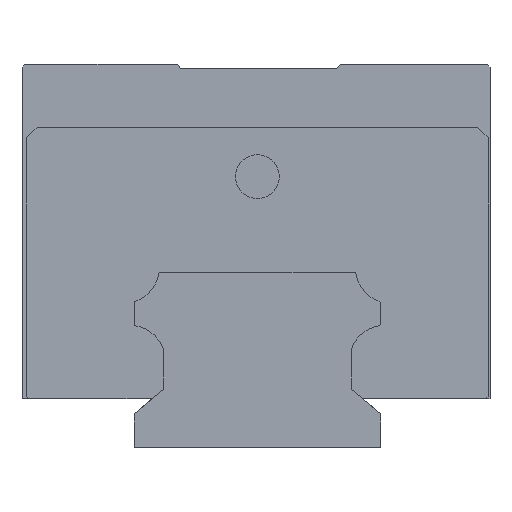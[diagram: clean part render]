
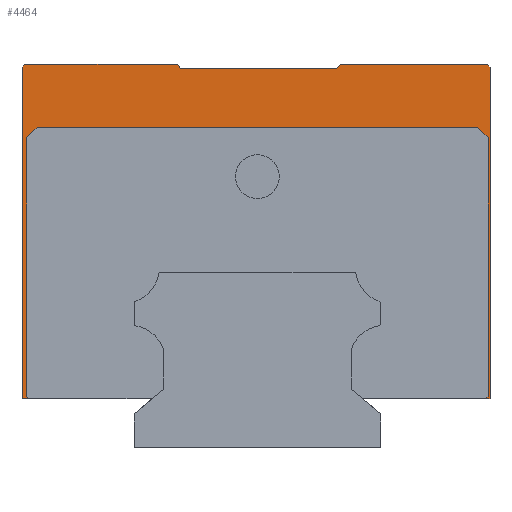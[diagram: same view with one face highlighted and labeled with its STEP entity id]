
A CAD part, left-side view. The second image highlights one B-rep face of the part: STEP entity #4464.
In plain terms, the highlighted planar face has unit normal (-1, 0, 0).
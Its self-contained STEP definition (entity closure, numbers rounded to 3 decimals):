
#63 = CARTESIAN_POINT ( 'NONE',  ( -53., 14., 69.25 ) ) ;
#88 = VERTEX_POINT ( 'NONE', #369 ) ;
#104 = ORIENTED_EDGE ( 'NONE', *, *, #3865, .F. ) ;
#113 = LINE ( 'NONE', #2906, #5127 ) ;
#124 = CARTESIAN_POINT ( 'NONE',  ( -53., 41.75, 8.9 ) ) ;
#142 = VECTOR ( 'NONE', #2968, 1000. ) ;
#161 = ORIENTED_EDGE ( 'NONE', *, *, #3371, .F. ) ;
#169 = LINE ( 'NONE', #1757, #2227 ) ;
#172 = ORIENTED_EDGE ( 'NONE', *, *, #3159, .F. ) ;
#173 = LINE ( 'NONE', #982, #965 ) ;
#175 = CARTESIAN_POINT ( 'NONE',  ( -53., -14.5, 69.25 ) ) ;
#178 = DIRECTION ( 'NONE',  ( 0., 1., 0. ) ) ;
#224 = LINE ( 'NONE', #3072, #4138 ) ;
#251 = VERTEX_POINT ( 'NONE', #2863 ) ;
#269 = DIRECTION ( 'NONE',  ( 0., 0.707, -0.707 ) ) ;
#333 = ORIENTED_EDGE ( 'NONE', *, *, #691, .T. ) ;
#369 = CARTESIAN_POINT ( 'NONE',  ( -53., -15.129, 70. ) ) ;
#396 = VECTOR ( 'NONE', #4522, 1000. ) ;
#416 = CARTESIAN_POINT ( 'NONE',  ( -53., 42.15, 56.6 ) ) ;
#479 = LINE ( 'NONE', #4888, #4144 ) ;
#502 = DIRECTION ( 'NONE',  ( 0., 0.643, 0.766 ) ) ;
#506 = DIRECTION ( 'NONE',  ( 0., 0., -1. ) ) ;
#541 = ORIENTED_EDGE ( 'NONE', *, *, #5160, .F. ) ;
#586 = LINE ( 'NONE', #175, #2231 ) ;
#617 = CARTESIAN_POINT ( 'NONE',  ( -53., 43., 8.9 ) ) ;
#645 = VERTEX_POINT ( 'NONE', #3975 ) ;
#653 = CARTESIAN_POINT ( 'NONE',  ( -53., 43., 8.9 ) ) ;
#686 = CARTESIAN_POINT ( 'NONE',  ( -53., 42.5, 70. ) ) ;
#691 = EDGE_CURVE ( 'NONE', #88, #2659, #903, .T. ) ;
#701 = ORIENTED_EDGE ( 'NONE', *, *, #4993, .F. ) ;
#803 = VECTOR ( 'NONE', #2217, 1000. ) ;
#816 = CARTESIAN_POINT ( 'NONE',  ( -53., -42.15, 56.6 ) ) ;
#846 = VERTEX_POINT ( 'NONE', #1363 ) ;
#864 = CARTESIAN_POINT ( 'NONE',  ( -53., 40.25, 58.5 ) ) ;
#903 = LINE ( 'NONE', #4536, #2874 ) ;
#908 = CARTESIAN_POINT ( 'NONE',  ( -53., -42.5, 69.5 ) ) ;
#911 = CARTESIAN_POINT ( 'NONE',  ( -53., 42.5, 70. ) ) ;
#965 = VECTOR ( 'NONE', #3755, 1000. ) ;
#982 = CARTESIAN_POINT ( 'NONE',  ( -53., -41.75, 8.9 ) ) ;
#1004 = LINE ( 'NONE', #3255, #1228 ) ;
#1135 = VERTEX_POINT ( 'NONE', #3178 ) ;
#1157 = CARTESIAN_POINT ( 'NONE',  ( -53., 19.554, 8.9 ) ) ;
#1162 = CARTESIAN_POINT ( 'NONE',  ( -53., 42.15, 9.3 ) ) ;
#1183 = VERTEX_POINT ( 'NONE', #2835 ) ;
#1186 = ORIENTED_EDGE ( 'NONE', *, *, #2491, .T. ) ;
#1228 = VECTOR ( 'NONE', #2421, 1000. ) ;
#1234 = EDGE_CURVE ( 'NONE', #645, #3288, #173, .T. ) ;
#1327 = CARTESIAN_POINT ( 'NONE',  ( -53., -42., 70. ) ) ;
#1334 = LINE ( 'NONE', #911, #396 ) ;
#1342 = FACE_OUTER_BOUND ( 'NONE', #4091, .T. ) ;
#1363 = CARTESIAN_POINT ( 'NONE',  ( -53., 43., 69.5 ) ) ;
#1366 = DIRECTION ( 'NONE',  ( 1., 0., 0. ) ) ;
#1444 = EDGE_CURVE ( 'NONE', #251, #846, #224, .T. ) ;
#1536 = LINE ( 'NONE', #1592, #1566 ) ;
#1552 = VECTOR ( 'NONE', #4435, 1000. ) ;
#1555 = VECTOR ( 'NONE', #2770, 1000. ) ;
#1566 = VECTOR ( 'NONE', #4690, 1000. ) ;
#1592 = CARTESIAN_POINT ( 'NONE',  ( -53., -42.5, 69.5 ) ) ;
#1635 = VERTEX_POINT ( 'NONE', #2489 ) ;
#1640 = CARTESIAN_POINT ( 'NONE',  ( -53., -42.15, 9.3 ) ) ;
#1718 = ORIENTED_EDGE ( 'NONE', *, *, #2283, .T. ) ;
#1737 = EDGE_CURVE ( 'NONE', #3707, #4746, #4443, .T. ) ;
#1756 = CARTESIAN_POINT ( 'NONE',  ( -53., 40.25, 58.5 ) ) ;
#1757 = CARTESIAN_POINT ( 'NONE',  ( -53., -43., 8.9 ) ) ;
#1758 = ORIENTED_EDGE ( 'NONE', *, *, #3106, .F. ) ;
#1797 = VECTOR ( 'NONE', #1814, 1000. ) ;
#1814 = DIRECTION ( 'NONE',  ( 0., -1., 0. ) ) ;
#1856 = ORIENTED_EDGE ( 'NONE', *, *, #1444, .T. ) ;
#1916 = ORIENTED_EDGE ( 'NONE', *, *, #1234, .F. ) ;
#2013 = EDGE_CURVE ( 'NONE', #1135, #1635, #4107, .T. ) ;
#2133 = ORIENTED_EDGE ( 'NONE', *, *, #5131, .F. ) ;
#2217 = DIRECTION ( 'NONE',  ( 0., 0., 1. ) ) ;
#2227 = VECTOR ( 'NONE', #4614, 1000. ) ;
#2231 = VECTOR ( 'NONE', #3209, 1000. ) ;
#2265 = CARTESIAN_POINT ( 'NONE',  ( -53., -14.5, 69.25 ) ) ;
#2283 = EDGE_CURVE ( 'NONE', #2905, #3160, #1536, .T. ) ;
#2412 = EDGE_CURVE ( 'NONE', #4823, #3298, #1004, .T. ) ;
#2421 = DIRECTION ( 'NONE',  ( 0., -0.707, -0.707 ) ) ;
#2464 = CARTESIAN_POINT ( 'NONE',  ( -53., -42.15, 56.6 ) ) ;
#2479 = ORIENTED_EDGE ( 'NONE', *, *, #2921, .F. ) ;
#2489 = CARTESIAN_POINT ( 'NONE',  ( -53., 14.629, 70. ) ) ;
#2491 = EDGE_CURVE ( 'NONE', #2659, #1135, #586, .T. ) ;
#2523 = CARTESIAN_POINT ( 'NONE',  ( -53., -43., 70. ) ) ;
#2617 = VECTOR ( 'NONE', #269, 1000. ) ;
#2659 = VERTEX_POINT ( 'NONE', #2265 ) ;
#2691 = LINE ( 'NONE', #686, #1797 ) ;
#2770 = DIRECTION ( 'NONE',  ( 0., 1., 0. ) ) ;
#2802 = LINE ( 'NONE', #816, #4656 ) ;
#2825 = DIRECTION ( 'NONE',  ( 0., 0.707, 0.707 ) ) ;
#2835 = CARTESIAN_POINT ( 'NONE',  ( -53., -42.5, 8.9 ) ) ;
#2863 = CARTESIAN_POINT ( 'NONE',  ( -53., 42.5, 70. ) ) ;
#2874 = VECTOR ( 'NONE', #3758, 1000. ) ;
#2905 = VERTEX_POINT ( 'NONE', #908 ) ;
#2906 = CARTESIAN_POINT ( 'NONE',  ( -53., -42.5, 70. ) ) ;
#2914 = CARTESIAN_POINT ( 'NONE',  ( -53., -40.25, 58.5 ) ) ;
#2921 = EDGE_CURVE ( 'NONE', #3288, #3732, #4930, .T. ) ;
#2968 = DIRECTION ( 'NONE',  ( 0., 1., 0. ) ) ;
#3015 = EDGE_CURVE ( 'NONE', #3431, #846, #4603, .T. ) ;
#3072 = CARTESIAN_POINT ( 'NONE',  ( -53., 42.5, 70. ) ) ;
#3106 = EDGE_CURVE ( 'NONE', #88, #3160, #1334, .T. ) ;
#3111 = ORIENTED_EDGE ( 'NONE', *, *, #2412, .F. ) ;
#3147 = LINE ( 'NONE', #1157, #1555 ) ;
#3159 = EDGE_CURVE ( 'NONE', #4746, #4823, #479, .T. ) ;
#3160 = VERTEX_POINT ( 'NONE', #1327 ) ;
#3178 = CARTESIAN_POINT ( 'NONE',  ( -53., 14., 69.25 ) ) ;
#3209 = DIRECTION ( 'NONE',  ( 0., 1., 0. ) ) ;
#3255 = CARTESIAN_POINT ( 'NONE',  ( -53., 42.15, 9.3 ) ) ;
#3278 = CARTESIAN_POINT ( 'NONE',  ( -53., -42.15, 9.3 ) ) ;
#3288 = VERTEX_POINT ( 'NONE', #3278 ) ;
#3291 = VECTOR ( 'NONE', #502, 1000. ) ;
#3298 = VERTEX_POINT ( 'NONE', #124 ) ;
#3371 = EDGE_CURVE ( 'NONE', #3690, #3707, #4952, .T. ) ;
#3431 = VERTEX_POINT ( 'NONE', #653 ) ;
#3615 = CARTESIAN_POINT ( 'NONE',  ( -53., -40.25, 58.5 ) ) ;
#3690 = VERTEX_POINT ( 'NONE', #3615 ) ;
#3707 = VERTEX_POINT ( 'NONE', #1756 ) ;
#3710 = EDGE_CURVE ( 'NONE', #2905, #1183, #113, .T. ) ;
#3732 = VERTEX_POINT ( 'NONE', #2464 ) ;
#3755 = DIRECTION ( 'NONE',  ( 0., -0.707, 0.707 ) ) ;
#3758 = DIRECTION ( 'NONE',  ( 0., 0.643, -0.766 ) ) ;
#3865 = EDGE_CURVE ( 'NONE', #251, #1635, #2691, .T. ) ;
#3890 = ORIENTED_EDGE ( 'NONE', *, *, #2013, .T. ) ;
#3975 = CARTESIAN_POINT ( 'NONE',  ( -53., -41.75, 8.9 ) ) ;
#4091 = EDGE_LOOP ( 'NONE', ( #3111, #172, #5148, #161, #541, #2479, #1916, #701, #4169, #1718, #1758, #333, #1186, #3890, #104, #1856, #4731, #2133 ) ) ;
#4107 = LINE ( 'NONE', #63, #3291 ) ;
#4138 = VECTOR ( 'NONE', #4271, 1000. ) ;
#4144 = VECTOR ( 'NONE', #4962, 1000. ) ;
#4169 = ORIENTED_EDGE ( 'NONE', *, *, #3710, .F. ) ;
#4271 = DIRECTION ( 'NONE',  ( 0., 0.707, -0.707 ) ) ;
#4435 = DIRECTION ( 'NONE',  ( 0., 0., 1. ) ) ;
#4443 = LINE ( 'NONE', #864, #2617 ) ;
#4464 = ADVANCED_FACE ( 'NONE', ( #1342 ), #4878, .F. ) ;
#4522 = DIRECTION ( 'NONE',  ( 0., -1., 0. ) ) ;
#4536 = CARTESIAN_POINT ( 'NONE',  ( -53., -15.129, 70. ) ) ;
#4603 = LINE ( 'NONE', #617, #803 ) ;
#4614 = DIRECTION ( 'NONE',  ( 0., 1., 0. ) ) ;
#4656 = VECTOR ( 'NONE', #2825, 1000. ) ;
#4690 = DIRECTION ( 'NONE',  ( 0., 0.707, 0.707 ) ) ;
#4714 = AXIS2_PLACEMENT_3D ( 'NONE', #2523, #1366, #178 ) ;
#4731 = ORIENTED_EDGE ( 'NONE', *, *, #3015, .F. ) ;
#4746 = VERTEX_POINT ( 'NONE', #416 ) ;
#4823 = VERTEX_POINT ( 'NONE', #1162 ) ;
#4878 = PLANE ( 'NONE',  #4714 ) ;
#4888 = CARTESIAN_POINT ( 'NONE',  ( -53., 42.15, 56.6 ) ) ;
#4930 = LINE ( 'NONE', #1640, #1552 ) ;
#4952 = LINE ( 'NONE', #2914, #142 ) ;
#4962 = DIRECTION ( 'NONE',  ( 0., 0., -1. ) ) ;
#4993 = EDGE_CURVE ( 'NONE', #1183, #645, #169, .T. ) ;
#5127 = VECTOR ( 'NONE', #506, 1000. ) ;
#5131 = EDGE_CURVE ( 'NONE', #3298, #3431, #3147, .T. ) ;
#5148 = ORIENTED_EDGE ( 'NONE', *, *, #1737, .F. ) ;
#5160 = EDGE_CURVE ( 'NONE', #3732, #3690, #2802, .T. ) ;
